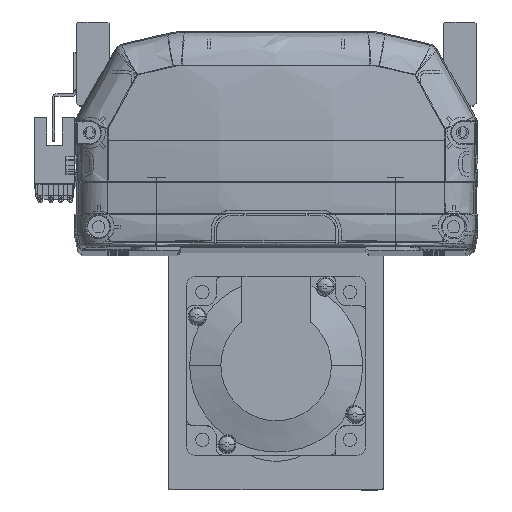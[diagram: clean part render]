
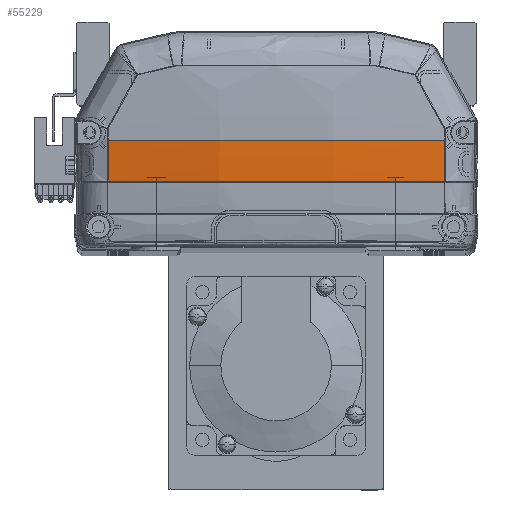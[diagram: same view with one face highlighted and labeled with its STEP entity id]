
A CAD part, top view. The second image highlights one B-rep face of the part: STEP entity #55229.
In plain terms, the highlighted free-form (B-spline) face has degree [3, 3] with [4, 4] control points.
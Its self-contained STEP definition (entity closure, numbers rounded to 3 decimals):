
#2179 = CARTESIAN_POINT ( 'NONE',  ( -56.661, 22.225, -4.818 ) ) ;
#2438 = AXIS2_PLACEMENT_3D ( 'NONE', #28178, #23645, #14593 ) ;
#2750 = CARTESIAN_POINT ( 'NONE',  ( 19.121, 22.225, -9.064 ) ) ;
#3437 = CARTESIAN_POINT ( 'NONE',  ( 56.647, 35.969, -5.158 ) ) ;
#3697 = CARTESIAN_POINT ( 'NONE',  ( -57.335, 31.38, -5.042 ) ) ;
#5388 = VERTEX_POINT ( 'NONE', #3437 ) ;
#5394 = CARTESIAN_POINT ( 'NONE',  ( 56.647, 35.969, -5.158 ) ) ;
#5941 = EDGE_CURVE ( 'NONE', #5388, #30793, #36607, .T. ) ;
#6709 = CARTESIAN_POINT ( 'NONE',  ( 23.877, 22.225, -8.763 ) ) ;
#7308 = CARTESIAN_POINT ( 'NONE',  ( 8.363, 22.225, -9.48 ) ) ;
#7826 = CARTESIAN_POINT ( 'NONE',  ( 57.335, 22.148, -4.7 ) ) ;
#9512 = CARTESIAN_POINT ( 'NONE',  ( 56.647, 36., -5.158 ) ) ;
#9892 = CARTESIAN_POINT ( 'NONE',  ( 56.661, 22.225, -4.818 ) ) ;
#11240 = CARTESIAN_POINT ( 'NONE',  ( -56.652, 26.814, -5.045 ) ) ;
#12013 = DIRECTION ( 'NONE',  ( -1., 0., 0. ) ) ;
#12354 = CARTESIAN_POINT ( 'NONE',  ( -19.295, 36., -11.535 ) ) ;
#13131 = CARTESIAN_POINT ( 'NONE',  ( -19.295, 31.274, -11.535 ) ) ;
#13644 = EDGE_CURVE ( 'NONE', #38332, #28660, #55920, .T. ) ;
#14593 = DIRECTION ( 'NONE',  ( 0., 0., -1. ) ) ;
#15196 = ORIENTED_EDGE ( 'NONE', *, *, #43401, .T. ) ;
#15513 = CARTESIAN_POINT ( 'NONE',  ( 1.152, 22.225, -9.568 ) ) ;
#15704 = CARTESIAN_POINT ( 'NONE',  ( -56.661, 22.225, -4.818 ) ) ;
#15899 = CARTESIAN_POINT ( 'NONE',  ( 11.954, 22.225, -9.367 ) ) ;
#17576 =( BOUNDED_SURFACE ( )  B_SPLINE_SURFACE ( 3, 3, ( 
 ( #7826, #57247, #48749, #52890 ),
 ( #57836, #30381, #53089, #22157 ),
 ( #31155, #35260, #13131, #12354 ),
 ( #39769, #26446, #3697, #30785 ) ),
 .UNSPECIFIED., .F., .F., .F. ) 
 B_SPLINE_SURFACE_WITH_KNOTS ( ( 4, 4 ),
 ( 4, 4 ),
 ( 0., 1. ),
 ( 0., 1. ),
 .UNSPECIFIED. ) 
 GEOMETRIC_REPRESENTATION_ITEM ( )  RATIONAL_B_SPLINE_SURFACE ( (
 ( 1., 1., 1., 1.),
 ( 0.99, 0.99, 0.99, 0.99),
 ( 0.99, 0.99, 0.99, 0.99),
 ( 1., 1., 1., 1.) ) ) 
 REPRESENTATION_ITEM ( '' )  SURFACE ( )  );
#20025 = CARTESIAN_POINT ( 'NONE',  ( -38.235, 22.225, -7.93 ) ) ;
#21142 = CARTESIAN_POINT ( 'NONE',  ( -56.647, 36., -5.158 ) ) ;
#21874 = ORIENTED_EDGE ( 'NONE', *, *, #50939, .F. ) ;
#22157 = CARTESIAN_POINT ( 'NONE',  ( 19.295, 36., -11.535 ) ) ;
#22450 = B_SPLINE_CURVE_WITH_KNOTS ( 'NONE', 3,
 ( #9892, #28177, #50828, #5394 ),
 .UNSPECIFIED., .F., .F.,
 ( 4, 4 ),
 ( 0., 1. ),
 .UNSPECIFIED. ) ;
#22842 = ORIENTED_EDGE ( 'NONE', *, *, #28764, .F. ) ;
#23645 = DIRECTION ( 'NONE',  ( 0., 1., 0. ) ) ;
#25358 = VERTEX_POINT ( 'NONE', #54465 ) ;
#26446 = CARTESIAN_POINT ( 'NONE',  ( -57.335, 26.762, -4.928 ) ) ;
#28178 = CARTESIAN_POINT ( 'NONE',  ( 0., 36., 330.833 ) ) ;
#28177 = CARTESIAN_POINT ( 'NONE',  ( 56.652, 26.806, -5.044 ) ) ;
#28660 = VERTEX_POINT ( 'NONE', #39932 ) ;
#28764 = EDGE_CURVE ( 'NONE', #30793, #38332, #56761, .T. ) ;
#28936 = FACE_OUTER_BOUND ( 'NONE', #53709, .T. ) ;
#30381 = CARTESIAN_POINT ( 'NONE',  ( 19.295, 26.549, -11.419 ) ) ;
#30785 = CARTESIAN_POINT ( 'NONE',  ( -57.335, 36., -5.042 ) ) ;
#30793 = VERTEX_POINT ( 'NONE', #9512 ) ;
#31155 = CARTESIAN_POINT ( 'NONE',  ( -19.295, 21.828, -11.186 ) ) ;
#31846 = B_SPLINE_CURVE_WITH_KNOTS ( 'NONE', 3,
 ( #38067, #56119, #47437, #6709, #2750, #15899, #7308, #34152, #51763, #15513, #47236, #20025, #2179 ),
 .UNSPECIFIED., .F., .F.,
 ( 4, 2, 2, 1, 2, 2, 4 ),
 ( 0., 0.25, 0.375, 0.438, 0.469, 0.5, 1. ),
 .UNSPECIFIED. ) ;
#32765 = AXIS2_PLACEMENT_3D ( 'NONE', #34354, #38834, #12013 ) ;
#34152 = CARTESIAN_POINT ( 'NONE',  ( 4.761, 22.225, -9.537 ) ) ;
#34354 = CARTESIAN_POINT ( 'NONE',  ( 6452.613, 35.969, -5.158 ) ) ;
#35260 = CARTESIAN_POINT ( 'NONE',  ( -19.295, 26.549, -11.419 ) ) ;
#36607 = CIRCLE ( 'NONE', #32765, 6395.966 ) ;
#36921 = ORIENTED_EDGE ( 'NONE', *, *, #5941, .F. ) ;
#38067 = CARTESIAN_POINT ( 'NONE',  ( 56.661, 22.225, -4.818 ) ) ;
#38090 = ORIENTED_EDGE ( 'NONE', *, *, #13644, .F. ) ;
#38332 = VERTEX_POINT ( 'NONE', #21142 ) ;
#38834 = DIRECTION ( 'NONE',  ( 0., 0., -1. ) ) ;
#39769 = CARTESIAN_POINT ( 'NONE',  ( -57.335, 22.148, -4.7 ) ) ;
#39932 = CARTESIAN_POINT ( 'NONE',  ( -56.661, 22.225, -4.818 ) ) ;
#42566 = CARTESIAN_POINT ( 'NONE',  ( -56.647, 31.405, -5.158 ) ) ;
#43401 = EDGE_CURVE ( 'NONE', #25358, #28660, #31846, .T. ) ;
#47236 = CARTESIAN_POINT ( 'NONE',  ( -19.28, 22.225, -9.565 ) ) ;
#47437 = CARTESIAN_POINT ( 'NONE',  ( 38.071, 22.225, -7.566 ) ) ;
#48749 = CARTESIAN_POINT ( 'NONE',  ( 57.335, 31.38, -5.042 ) ) ;
#50828 = CARTESIAN_POINT ( 'NONE',  ( 56.647, 31.387, -5.158 ) ) ;
#50939 = EDGE_CURVE ( 'NONE', #25358, #5388, #22450, .T. ) ;
#51763 = CARTESIAN_POINT ( 'NONE',  ( 2.357, 22.225, -9.562 ) ) ;
#52890 = CARTESIAN_POINT ( 'NONE',  ( 57.335, 36., -5.042 ) ) ;
#53089 = CARTESIAN_POINT ( 'NONE',  ( 19.295, 31.274, -11.535 ) ) ;
#53709 = EDGE_LOOP ( 'NONE', ( #22842, #36921, #21874, #15196, #38090 ) ) ;
#54465 = CARTESIAN_POINT ( 'NONE',  ( 56.661, 22.225, -4.818 ) ) ;
#55229 = ADVANCED_FACE ( 'NONE', ( #28936 ), #17576, .T. ) ;
#55538 = CARTESIAN_POINT ( 'NONE',  ( -56.647, 36., -5.158 ) ) ;
#55920 = B_SPLINE_CURVE_WITH_KNOTS ( 'NONE', 3,
 ( #55538, #42566, #11240, #15704 ),
 .UNSPECIFIED., .F., .F.,
 ( 4, 4 ),
 ( 0., 1. ),
 .UNSPECIFIED. ) ;
#56119 = CARTESIAN_POINT ( 'NONE',  ( 47.432, 22.225, -6.377 ) ) ;
#56761 = CIRCLE ( 'NONE', #2438, 340.733 ) ;
#57247 = CARTESIAN_POINT ( 'NONE',  ( 57.335, 26.762, -4.928 ) ) ;
#57836 = CARTESIAN_POINT ( 'NONE',  ( 19.295, 21.828, -11.186 ) ) ;
